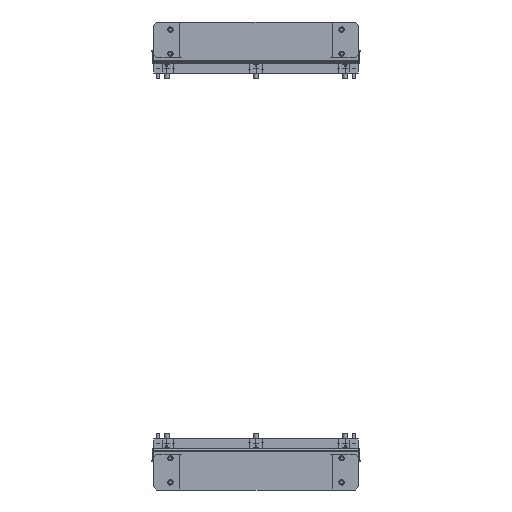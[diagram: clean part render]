
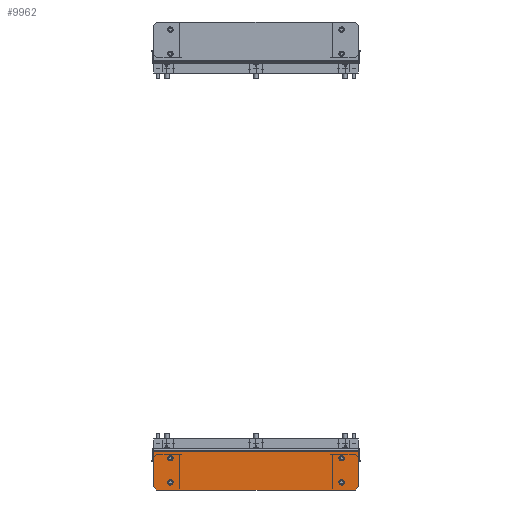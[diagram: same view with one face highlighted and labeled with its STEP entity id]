
A CAD part, front view. The second image highlights one B-rep face of the part: STEP entity #9962.
In plain terms, the highlighted planar face has unit normal (0, -1, 0).
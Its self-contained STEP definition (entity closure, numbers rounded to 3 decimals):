
#301 = DIRECTION ( 'NONE',  ( 0., 0., -1. ) ) ;
#834 = DIRECTION ( 'NONE',  ( -0.707, 0., 0.707 ) ) ;
#897 = EDGE_LOOP ( 'NONE', ( #7599, #11710 ) ) ;
#933 = CARTESIAN_POINT ( 'NONE',  ( 300., 0., 0. ) ) ;
#994 = DIRECTION ( 'NONE',  ( 0., 0., -1. ) ) ;
#1621 = CARTESIAN_POINT ( 'NONE',  ( -250., 0., 97.56 ) ) ;
#1722 = CARTESIAN_POINT ( 'NONE',  ( 250., 0., 105.56 ) ) ;
#1878 = AXIS2_PLACEMENT_3D ( 'NONE', #11005, #2891, #12375 ) ;
#2202 = ORIENTED_EDGE ( 'NONE', *, *, #10055, .F. ) ;
#2206 = AXIS2_PLACEMENT_3D ( 'NONE', #5479, #14949, #6826 ) ;
#2209 = AXIS2_PLACEMENT_3D ( 'NONE', #1621, #11092, #2990 ) ;
#2343 = EDGE_CURVE ( 'NONE', #16176, #4896, #17268, .T. ) ;
#2392 = DIRECTION ( 'NONE',  ( -1., 0., 0. ) ) ;
#2471 = LINE ( 'NONE', #5141, #9262 ) ;
#2677 = DIRECTION ( 'NONE',  ( 0., -1., 0. ) ) ;
#2757 = CARTESIAN_POINT ( 'NONE',  ( 300., 0., 8. ) ) ;
#2856 = ORIENTED_EDGE ( 'NONE', *, *, #9355, .F. ) ;
#2891 = DIRECTION ( 'NONE',  ( 0., -1., 0. ) ) ;
#2990 = DIRECTION ( 'NONE',  ( 0., 0., -1. ) ) ;
#3449 = ORIENTED_EDGE ( 'NONE', *, *, #4832, .T. ) ;
#3561 = EDGE_CURVE ( 'NONE', #8007, #10610, #6816, .T. ) ;
#3632 = VERTEX_POINT ( 'NONE', #9769 ) ;
#3756 = VECTOR ( 'NONE', #2392, 1000. ) ;
#3974 = CARTESIAN_POINT ( 'NONE',  ( -250., 0., 105.56 ) ) ;
#4149 = VERTEX_POINT ( 'NONE', #11732 ) ;
#4310 = VERTEX_POINT ( 'NONE', #3974 ) ;
#4339 = AXIS2_PLACEMENT_3D ( 'NONE', #933, #9093, #994 ) ;
#4562 = VECTOR ( 'NONE', #7756, 1000. ) ;
#4712 = EDGE_LOOP ( 'NONE', ( #9072, #11454 ) ) ;
#4832 = EDGE_CURVE ( 'NONE', #15357, #15569, #6371, .T. ) ;
#4882 = EDGE_CURVE ( 'NONE', #4149, #7730, #12755, .T. ) ;
#4896 = VERTEX_POINT ( 'NONE', #2757 ) ;
#5124 = CARTESIAN_POINT ( 'NONE',  ( -250., 0., 89.56 ) ) ;
#5141 = CARTESIAN_POINT ( 'NONE',  ( -55., 0., 355. ) ) ;
#5479 = CARTESIAN_POINT ( 'NONE',  ( 250., 0., 97.56 ) ) ;
#5525 = FACE_BOUND ( 'NONE', #4712, .T. ) ;
#5773 = ORIENTED_EDGE ( 'NONE', *, *, #8705, .F. ) ;
#6285 = VECTOR ( 'NONE', #14414, 1000. ) ;
#6306 = CIRCLE ( 'NONE', #2206, 8. ) ;
#6323 = CARTESIAN_POINT ( 'NONE',  ( 250., 0., 35.06 ) ) ;
#6371 = LINE ( 'NONE', #6728, #13188 ) ;
#6419 = CARTESIAN_POINT ( 'NONE',  ( -300., 0., 8. ) ) ;
#6586 = CARTESIAN_POINT ( 'NONE',  ( -250., 0., 97.56 ) ) ;
#6728 = CARTESIAN_POINT ( 'NONE',  ( 300., 0., 120. ) ) ;
#6768 = EDGE_CURVE ( 'NONE', #16176, #15357, #13754, .T. ) ;
#6816 = CIRCLE ( 'NONE', #1878, 8. ) ;
#6826 = DIRECTION ( 'NONE',  ( 0., 0., -1. ) ) ;
#6840 = CARTESIAN_POINT ( 'NONE',  ( -250., 0., 27.06 ) ) ;
#6866 = AXIS2_PLACEMENT_3D ( 'NONE', #6840, #16335, #8205 ) ;
#7143 = DIRECTION ( 'NONE',  ( 0., -1., 0. ) ) ;
#7599 = ORIENTED_EDGE ( 'NONE', *, *, #12079, .F. ) ;
#7643 = CARTESIAN_POINT ( 'NONE',  ( -300., 0., 0. ) ) ;
#7730 = VERTEX_POINT ( 'NONE', #10338 ) ;
#7756 = DIRECTION ( 'NONE',  ( 0., 0., -1. ) ) ;
#7948 = DIRECTION ( 'NONE',  ( 0., 0., -1. ) ) ;
#8007 = VERTEX_POINT ( 'NONE', #6323 ) ;
#8054 = EDGE_LOOP ( 'NONE', ( #2202, #15256 ) ) ;
#8111 = EDGE_CURVE ( 'NONE', #15569, #15219, #2471, .T. ) ;
#8205 = DIRECTION ( 'NONE',  ( 0., 0., -1. ) ) ;
#8224 = EDGE_CURVE ( 'NONE', #10370, #16067, #14761, .T. ) ;
#8378 = DIRECTION ( 'NONE',  ( 0., -1., 0. ) ) ;
#8616 = CARTESIAN_POINT ( 'NONE',  ( -290., 0., 120. ) ) ;
#8705 = EDGE_CURVE ( 'NONE', #4896, #3632, #16886, .T. ) ;
#8714 = FACE_OUTER_BOUND ( 'NONE', #10794, .T. ) ;
#9072 = ORIENTED_EDGE ( 'NONE', *, *, #12415, .F. ) ;
#9093 = DIRECTION ( 'NONE',  ( 0., -1., 0. ) ) ;
#9133 = CARTESIAN_POINT ( 'NONE',  ( 300., 0., 0. ) ) ;
#9262 = VECTOR ( 'NONE', #10575, 1000. ) ;
#9275 = ORIENTED_EDGE ( 'NONE', *, *, #2343, .F. ) ;
#9336 = CARTESIAN_POINT ( 'NONE',  ( -300., 0., 110. ) ) ;
#9355 = EDGE_CURVE ( 'NONE', #3632, #15219, #13501, .T. ) ;
#9743 = ORIENTED_EDGE ( 'NONE', *, *, #3561, .F. ) ;
#9769 = CARTESIAN_POINT ( 'NONE',  ( -300., 0., 8. ) ) ;
#9791 = AXIS2_PLACEMENT_3D ( 'NONE', #6586, #16084, #7948 ) ;
#9962 = ADVANCED_FACE ( 'NONE', ( #5525, #15913, #16776, #12310, #8714 ), #13150, .T. ) ;
#10055 = EDGE_CURVE ( 'NONE', #11210, #4310, #11027, .T. ) ;
#10153 = EDGE_CURVE ( 'NONE', #10610, #8007, #10597, .T. ) ;
#10338 = CARTESIAN_POINT ( 'NONE',  ( -250., 0., 19.06 ) ) ;
#10370 = VERTEX_POINT ( 'NONE', #1722 ) ;
#10549 = CIRCLE ( 'NONE', #12889, 8. ) ;
#10575 = DIRECTION ( 'NONE',  ( -0.707, 0., -0.707 ) ) ;
#10597 = CIRCLE ( 'NONE', #13430, 8. ) ;
#10610 = VERTEX_POINT ( 'NONE', #15770 ) ;
#10790 = CARTESIAN_POINT ( 'NONE',  ( 250., 0., 27.06 ) ) ;
#10794 = EDGE_LOOP ( 'NONE', ( #3449, #15589, #2856, #5773, #9275, #14581 ) ) ;
#11005 = CARTESIAN_POINT ( 'NONE',  ( 250., 0., 27.06 ) ) ;
#11027 = CIRCLE ( 'NONE', #9791, 8. ) ;
#11092 = DIRECTION ( 'NONE',  ( 0., -1., 0. ) ) ;
#11210 = VERTEX_POINT ( 'NONE', #5124 ) ;
#11317 = CARTESIAN_POINT ( 'NONE',  ( 250., 0., 89.56 ) ) ;
#11454 = ORIENTED_EDGE ( 'NONE', *, *, #8224, .F. ) ;
#11624 = ORIENTED_EDGE ( 'NONE', *, *, #10153, .F. ) ;
#11710 = ORIENTED_EDGE ( 'NONE', *, *, #4882, .F. ) ;
#11732 = CARTESIAN_POINT ( 'NONE',  ( -250., 0., 35.06 ) ) ;
#12035 = EDGE_LOOP ( 'NONE', ( #11624, #9743 ) ) ;
#12079 = EDGE_CURVE ( 'NONE', #7730, #4149, #10549, .T. ) ;
#12165 = DIRECTION ( 'NONE',  ( 0., 0., -1. ) ) ;
#12293 = CARTESIAN_POINT ( 'NONE',  ( 290., 0., 120. ) ) ;
#12310 = FACE_BOUND ( 'NONE', #8054, .T. ) ;
#12375 = DIRECTION ( 'NONE',  ( 0., 0., -1. ) ) ;
#12415 = EDGE_CURVE ( 'NONE', #16067, #10370, #6306, .T. ) ;
#12755 = CIRCLE ( 'NONE', #6866, 8. ) ;
#12828 = AXIS2_PLACEMENT_3D ( 'NONE', #16505, #8378, #301 ) ;
#12889 = AXIS2_PLACEMENT_3D ( 'NONE', #15263, #7143, #16636 ) ;
#13039 = CARTESIAN_POINT ( 'NONE',  ( 355., 0., 55. ) ) ;
#13150 = PLANE ( 'NONE',  #4339 ) ;
#13188 = VECTOR ( 'NONE', #13505, 1000. ) ;
#13430 = AXIS2_PLACEMENT_3D ( 'NONE', #10790, #2677, #12165 ) ;
#13501 = LINE ( 'NONE', #7643, #6285 ) ;
#13505 = DIRECTION ( 'NONE',  ( -1., 0., 0. ) ) ;
#13754 = LINE ( 'NONE', #13039, #16936 ) ;
#14291 = CIRCLE ( 'NONE', #2209, 8. ) ;
#14414 = DIRECTION ( 'NONE',  ( 0., 0., 1. ) ) ;
#14581 = ORIENTED_EDGE ( 'NONE', *, *, #6768, .T. ) ;
#14761 = CIRCLE ( 'NONE', #12828, 8. ) ;
#14949 = DIRECTION ( 'NONE',  ( 0., -1., 0. ) ) ;
#15219 = VERTEX_POINT ( 'NONE', #9336 ) ;
#15256 = ORIENTED_EDGE ( 'NONE', *, *, #15435, .F. ) ;
#15263 = CARTESIAN_POINT ( 'NONE',  ( -250., 0., 27.06 ) ) ;
#15357 = VERTEX_POINT ( 'NONE', #12293 ) ;
#15435 = EDGE_CURVE ( 'NONE', #4310, #11210, #14291, .T. ) ;
#15569 = VERTEX_POINT ( 'NONE', #8616 ) ;
#15589 = ORIENTED_EDGE ( 'NONE', *, *, #8111, .T. ) ;
#15686 = CARTESIAN_POINT ( 'NONE',  ( 300., 0., 110. ) ) ;
#15770 = CARTESIAN_POINT ( 'NONE',  ( 250., 0., 19.06 ) ) ;
#15913 = FACE_BOUND ( 'NONE', #897, .T. ) ;
#16067 = VERTEX_POINT ( 'NONE', #11317 ) ;
#16084 = DIRECTION ( 'NONE',  ( 0., -1., 0. ) ) ;
#16176 = VERTEX_POINT ( 'NONE', #15686 ) ;
#16335 = DIRECTION ( 'NONE',  ( 0., -1., 0. ) ) ;
#16505 = CARTESIAN_POINT ( 'NONE',  ( 250., 0., 97.56 ) ) ;
#16636 = DIRECTION ( 'NONE',  ( 0., 0., -1. ) ) ;
#16776 = FACE_BOUND ( 'NONE', #12035, .T. ) ;
#16886 = LINE ( 'NONE', #6419, #3756 ) ;
#16936 = VECTOR ( 'NONE', #834, 1000. ) ;
#17268 = LINE ( 'NONE', #9133, #4562 ) ;
